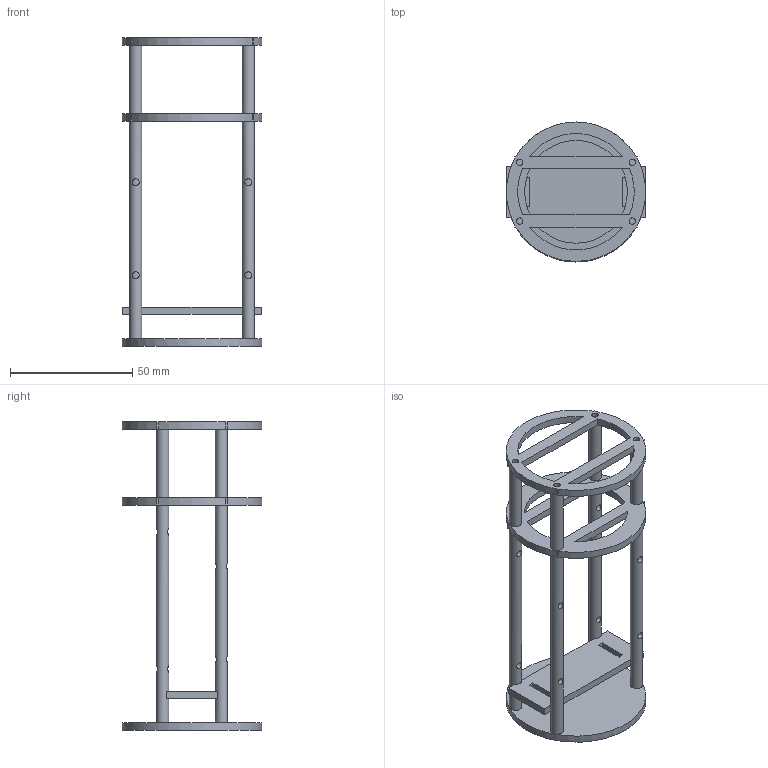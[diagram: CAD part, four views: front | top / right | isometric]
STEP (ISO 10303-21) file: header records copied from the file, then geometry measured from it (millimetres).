
FILE_DESCRIPTION(('FreeCAD Model'),'2;1');
FILE_NAME('Open CASCADE Shape Model','2026-09-19T17:18:18',('FreeCAD'),( 'FreeCAD'),'Open CASCADE STEP processor 7.8','FreeCAD','Unknown');
FILE_SCHEMA(('AUTOMOTIVE_DESIGN { 1 0 10303 214 1 1 1 1 }'));
Length unit declared in the file: millimetre
Products named in the file (1): Open CASCADE STEP translator 7.8 5
Bounding box: 57 x 57 x 126 mm (x, y, z)
Volume: 27591.1 mm3; surface area: 24485.8 mm2
Topology: 1 solids, 5 shells, 109 faces, 331 edges, 242 vertices
Faces by surface type: plane 64, cylinder 45
Full cylindrical faces by diameter (mm): 2.6 x8, 2.8 x8, 3.4 x4, 5 x8, 57 x1
Entity records: 5549 total; most frequent: CARTESIAN_POINT 2299, DIRECTION 681, ORIENTED_EDGE 662, EDGE_CURVE 331, AXIS2_PLACEMENT_3D 256, VERTEX_POINT 242, FACE_BOUND 169, EDGE_LOOP 169
